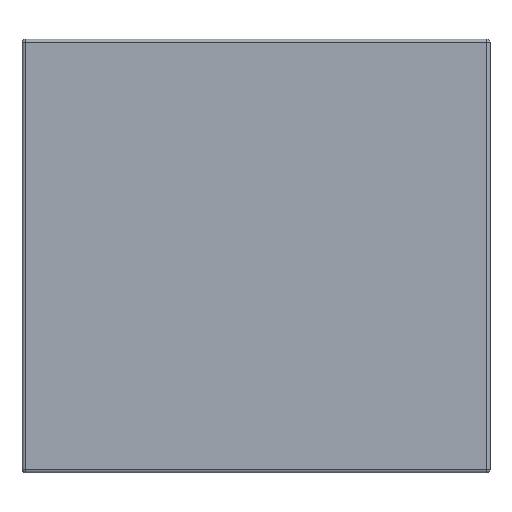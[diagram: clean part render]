
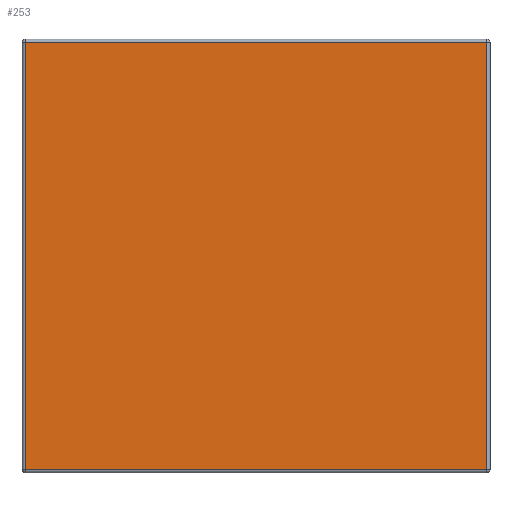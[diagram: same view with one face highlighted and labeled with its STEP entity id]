
A CAD part, front view. The second image highlights one B-rep face of the part: STEP entity #253.
In plain terms, the highlighted planar face has unit normal (0, -1, 0).
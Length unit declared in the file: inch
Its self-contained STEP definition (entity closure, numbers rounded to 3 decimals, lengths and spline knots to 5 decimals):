
#138 = CARTESIAN_POINT ( 'NONE',  ( 7.05, 0., 6.53 ) ) ;
#236 = CARTESIAN_POINT ( 'NONE',  ( 0.05, 0., 0.05 ) ) ;
#253 = ADVANCED_FACE ( 'NONE', ( #1170 ), #427, .F. ) ;
#276 = ORIENTED_EDGE ( 'NONE', *, *, #1707, .T. ) ;
#339 = CARTESIAN_POINT ( 'NONE',  ( 7.05, 0., 6.58 ) ) ;
#377 = DIRECTION ( 'NONE',  ( 0., 0., -1. ) ) ;
#398 = ORIENTED_EDGE ( 'NONE', *, *, #695, .T. ) ;
#427 = PLANE ( 'NONE',  #527 ) ;
#441 = EDGE_LOOP ( 'NONE', ( #865, #398, #276, #1249 ) ) ;
#450 = DIRECTION ( 'NONE',  ( 1., 0., 0. ) ) ;
#489 = LINE ( 'NONE', #339, #1061 ) ;
#527 = AXIS2_PLACEMENT_3D ( 'NONE', #1743, #1595, #757 ) ;
#575 = EDGE_CURVE ( 'NONE', #880, #1728, #1812, .T. ) ;
#692 = CARTESIAN_POINT ( 'NONE',  ( 0.05, 0., 0. ) ) ;
#695 = EDGE_CURVE ( 'NONE', #1728, #747, #1260, .T. ) ;
#747 = VERTEX_POINT ( 'NONE', #236 ) ;
#757 = DIRECTION ( 'NONE',  ( 1., 0., 0. ) ) ;
#865 = ORIENTED_EDGE ( 'NONE', *, *, #575, .T. ) ;
#880 = VERTEX_POINT ( 'NONE', #138 ) ;
#953 = CARTESIAN_POINT ( 'NONE',  ( 0.05, 0., 6.53 ) ) ;
#970 = EDGE_CURVE ( 'NONE', #1435, #880, #489, .T. ) ;
#1061 = VECTOR ( 'NONE', #1066, 39.37008 ) ;
#1064 = DIRECTION ( 'NONE',  ( -1., 0., 0. ) ) ;
#1066 = DIRECTION ( 'NONE',  ( 0., 0., 1. ) ) ;
#1069 = VECTOR ( 'NONE', #450, 39.37008 ) ;
#1170 = FACE_OUTER_BOUND ( 'NONE', #441, .T. ) ;
#1249 = ORIENTED_EDGE ( 'NONE', *, *, #970, .T. ) ;
#1260 = LINE ( 'NONE', #692, #1694 ) ;
#1435 = VERTEX_POINT ( 'NONE', #1460 ) ;
#1460 = CARTESIAN_POINT ( 'NONE',  ( 7.05, 0., 0.05 ) ) ;
#1481 = LINE ( 'NONE', #1769, #1069 ) ;
#1595 = DIRECTION ( 'NONE',  ( 0., 1., 0. ) ) ;
#1694 = VECTOR ( 'NONE', #377, 39.37008 ) ;
#1707 = EDGE_CURVE ( 'NONE', #747, #1435, #1481, .T. ) ;
#1728 = VERTEX_POINT ( 'NONE', #953 ) ;
#1743 = CARTESIAN_POINT ( 'NONE',  ( 0., 0., 6.58 ) ) ;
#1769 = CARTESIAN_POINT ( 'NONE',  ( 7.1, 0., 0.05 ) ) ;
#1785 = CARTESIAN_POINT ( 'NONE',  ( 0., 0., 6.53 ) ) ;
#1812 = LINE ( 'NONE', #1785, #1853 ) ;
#1853 = VECTOR ( 'NONE', #1064, 39.37008 ) ;
